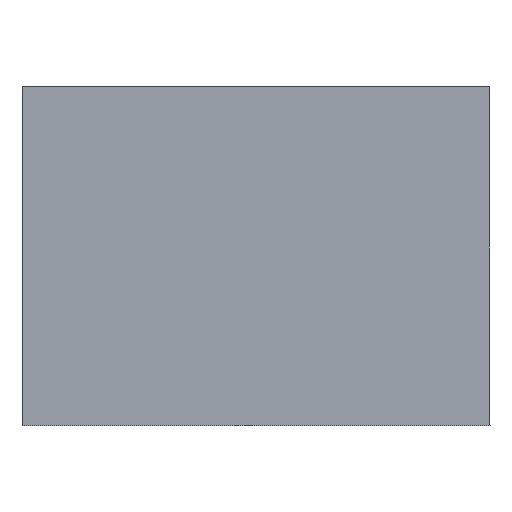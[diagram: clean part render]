
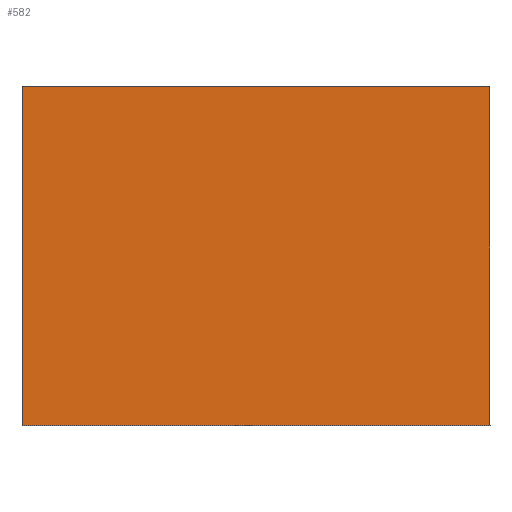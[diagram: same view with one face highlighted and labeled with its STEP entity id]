
A CAD part, front view. The second image highlights one B-rep face of the part: STEP entity #582.
In plain terms, the highlighted planar face has unit normal (0, -1, 0).
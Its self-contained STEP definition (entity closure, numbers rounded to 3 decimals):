
#41=PLANE('',#633);
#73=FACE_OUTER_BOUND('',#110,.T.);
#110=EDGE_LOOP('',(#520,#521,#522,#523,#524));
#121=LINE('',#806,#195);
#127=LINE('',#818,#201);
#170=LINE('',#902,#244);
#178=LINE('',#918,#252);
#181=LINE('',#924,#255);
#195=VECTOR('',#658,10.);
#201=VECTOR('',#666,10.);
#244=VECTOR('',#735,10.);
#252=VECTOR('',#747,10.);
#255=VECTOR('',#756,10.);
#274=VERTEX_POINT('',#804);
#275=VERTEX_POINT('',#805);
#280=VERTEX_POINT('',#817);
#308=VERTEX_POINT('',#900);
#314=VERTEX_POINT('',#916);
#326=EDGE_CURVE('',#274,#275,#121,.T.);
#332=EDGE_CURVE('',#275,#280,#127,.T.);
#375=EDGE_CURVE('',#308,#280,#170,.T.);
#383=EDGE_CURVE('',#314,#308,#178,.T.);
#386=EDGE_CURVE('',#274,#314,#181,.T.);
#520=ORIENTED_EDGE('',*,*,#332,.T.);
#521=ORIENTED_EDGE('',*,*,#375,.F.);
#522=ORIENTED_EDGE('',*,*,#383,.F.);
#523=ORIENTED_EDGE('',*,*,#386,.F.);
#524=ORIENTED_EDGE('',*,*,#326,.T.);
#582=ADVANCED_FACE('',(#73),#41,.T.);
#633=AXIS2_PLACEMENT_3D('',#926,#759,#760);
#658=DIRECTION('',(0.,0.,1.));
#666=DIRECTION('',(0.,0.,1.));
#735=DIRECTION('',(1.,0.,0.));
#747=DIRECTION('',(0.,0.,1.));
#756=DIRECTION('',(-1.,0.,0.));
#759=DIRECTION('center_axis',(0.,-1.,0.));
#760=DIRECTION('ref_axis',(0.,0.,1.));
#804=CARTESIAN_POINT('',(185.204,-7.,-5.89));
#805=CARTESIAN_POINT('',(185.202,-7.,76.762));
#806=CARTESIAN_POINT('',(185.203,-7.,29.628));
#817=CARTESIAN_POINT('',(185.204,-7.,136.679));
#818=CARTESIAN_POINT('',(185.202,-7.,70.953));
#900=CARTESIAN_POINT('',(-11.15,-7.,136.679));
#902=CARTESIAN_POINT('',(381.058,-7.,136.679));
#916=CARTESIAN_POINT('',(-11.15,-7.,-5.89));
#918=CARTESIAN_POINT('',(-11.15,-7.,-5.89));
#924=CARTESIAN_POINT('',(-10.65,-7.,-5.89));
#926=CARTESIAN_POINT('Origin',(185.204,-7.,65.145));
